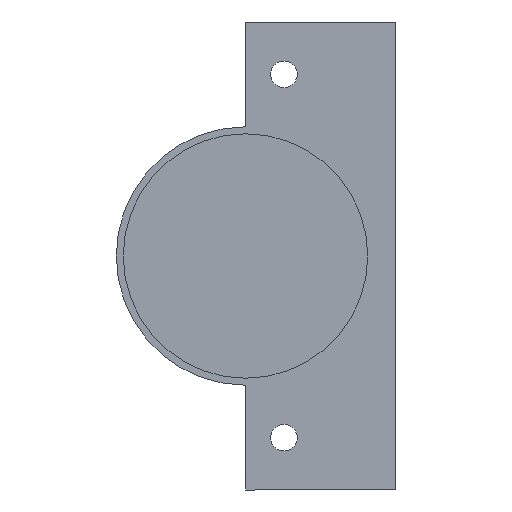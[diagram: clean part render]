
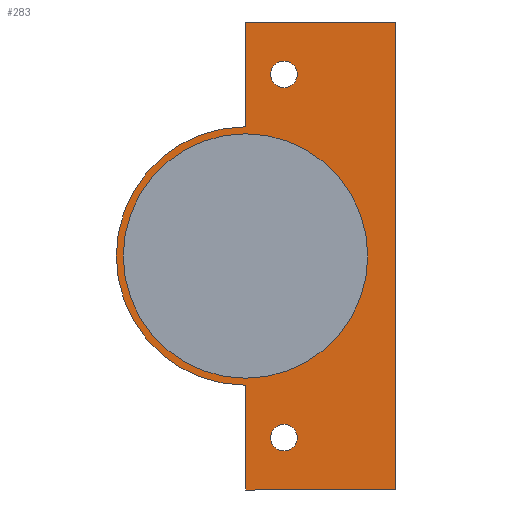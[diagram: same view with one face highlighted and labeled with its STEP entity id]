
A CAD part, front view. The second image highlights one B-rep face of the part: STEP entity #283.
In plain terms, the highlighted planar face has unit normal (0, -1, 0).
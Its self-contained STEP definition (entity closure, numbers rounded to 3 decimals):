
#16 = VERTEX_POINT ( 'NONE', #24 ) ;
#24 = CARTESIAN_POINT ( 'NONE',  ( 29.5, -38.5, 0. ) ) ;
#31 = DIRECTION ( 'NONE',  ( -1., 0., 0. ) ) ;
#47 = ORIENTED_EDGE ( 'NONE', *, *, #1100, .F. ) ;
#58 = DIRECTION ( 'NONE',  ( 0., -1., 0. ) ) ;
#64 = DIRECTION ( 'NONE',  ( -1., 0., 0. ) ) ;
#75 = CARTESIAN_POINT ( 'NONE',  ( 33.5, -38.5, -33.5 ) ) ;
#98 = CARTESIAN_POINT ( 'NONE',  ( 12., -38.5, 0. ) ) ;
#103 = FACE_BOUND ( 'NONE', #224, .T. ) ;
#108 = VERTEX_POINT ( 'NONE', #214 ) ;
#121 = CARTESIAN_POINT ( 'NONE',  ( 19.4, -38.5, -26. ) ) ;
#122 = EDGE_CURVE ( 'NONE', #1144, #433, #303, .T. ) ;
#124 = CIRCLE ( 'NONE', #959, 17.5 ) ;
#145 = FACE_OUTER_BOUND ( 'NONE', #1325, .T. ) ;
#178 = DIRECTION ( 'NONE',  ( 0., 1., 0. ) ) ;
#182 = CARTESIAN_POINT ( 'NONE',  ( 12., -38.5, 0. ) ) ;
#187 = CARTESIAN_POINT ( 'NONE',  ( 33.5, -38.5, -33.5 ) ) ;
#193 = AXIS2_PLACEMENT_3D ( 'NONE', #1043, #1037, #1036 ) ;
#198 = VERTEX_POINT ( 'NONE', #1233 ) ;
#199 = DIRECTION ( 'NONE',  ( -1., 0., 0. ) ) ;
#200 = VERTEX_POINT ( 'NONE', #1301 ) ;
#206 = VECTOR ( 'NONE', #520, 1000. ) ;
#214 = CARTESIAN_POINT ( 'NONE',  ( 12., -38.5, -18.5 ) ) ;
#219 = EDGE_CURVE ( 'NONE', #1096, #543, #847, .T. ) ;
#224 = EDGE_LOOP ( 'NONE', ( #1095, #671 ) ) ;
#232 = CARTESIAN_POINT ( 'NONE',  ( 15.6, -38.5, 26. ) ) ;
#259 = DIRECTION ( 'NONE',  ( 0., 1., 0. ) ) ;
#278 = EDGE_LOOP ( 'NONE', ( #373, #782 ) ) ;
#283 = ADVANCED_FACE ( 'NONE', ( #776, #814, #145, #103 ), #813, .F. ) ;
#292 = CARTESIAN_POINT ( 'NONE',  ( 17.5, -38.5, 26. ) ) ;
#295 = CARTESIAN_POINT ( 'NONE',  ( 19.4, -38.5, 26. ) ) ;
#301 = VERTEX_POINT ( 'NONE', #121 ) ;
#303 = LINE ( 'NONE', #75, #636 ) ;
#326 = CIRCLE ( 'NONE', #193, 1.9 ) ;
#330 = DIRECTION ( 'NONE',  ( -1., 0., 0. ) ) ;
#350 = DIRECTION ( 'NONE',  ( 0., 1., 0. ) ) ;
#356 = VERTEX_POINT ( 'NONE', #1432 ) ;
#373 = ORIENTED_EDGE ( 'NONE', *, *, #439, .T. ) ;
#393 = DIRECTION ( 'NONE',  ( 0., 0., -1. ) ) ;
#413 = AXIS2_PLACEMENT_3D ( 'NONE', #1077, #1065, #1058 ) ;
#425 = ORIENTED_EDGE ( 'NONE', *, *, #965, .F. ) ;
#432 = LINE ( 'NONE', #1470, #1250 ) ;
#433 = VERTEX_POINT ( 'NONE', #1115 ) ;
#436 = EDGE_CURVE ( 'NONE', #301, #198, #894, .T. ) ;
#439 = EDGE_CURVE ( 'NONE', #198, #301, #326, .T. ) ;
#472 = DIRECTION ( 'NONE',  ( -1., 0., 0. ) ) ;
#508 = ORIENTED_EDGE ( 'NONE', *, *, #1455, .F. ) ;
#520 = DIRECTION ( 'NONE',  ( 1., 0., 0. ) ) ;
#543 = VERTEX_POINT ( 'NONE', #295 ) ;
#560 = ORIENTED_EDGE ( 'NONE', *, *, #219, .T. ) ;
#573 = CARTESIAN_POINT ( 'NONE',  ( 12., -38.5, -33.5 ) ) ;
#577 = VECTOR ( 'NONE', #1118, 1000. ) ;
#585 = EDGE_LOOP ( 'NONE', ( #560, #634 ) ) ;
#610 = LINE ( 'NONE', #1416, #577 ) ;
#623 = DIRECTION ( 'NONE',  ( 0., 0., 1. ) ) ;
#634 = ORIENTED_EDGE ( 'NONE', *, *, #938, .T. ) ;
#636 = VECTOR ( 'NONE', #64, 1000. ) ;
#643 = CARTESIAN_POINT ( 'NONE',  ( 12., -38.5, 0. ) ) ;
#665 = AXIS2_PLACEMENT_3D ( 'NONE', #1190, #1110, #1153 ) ;
#671 = ORIENTED_EDGE ( 'NONE', *, *, #716, .F. ) ;
#684 = DIRECTION ( 'NONE',  ( 0., -1., 0. ) ) ;
#691 = VECTOR ( 'NONE', #623, 1000. ) ;
#716 = EDGE_CURVE ( 'NONE', #16, #200, #1021, .T. ) ;
#776 = FACE_BOUND ( 'NONE', #278, .T. ) ;
#780 = CARTESIAN_POINT ( 'NONE',  ( 12., -38.5, 0. ) ) ;
#782 = ORIENTED_EDGE ( 'NONE', *, *, #436, .T. ) ;
#797 = ORIENTED_EDGE ( 'NONE', *, *, #122, .F. ) ;
#813 = PLANE ( 'NONE',  #1366 ) ;
#814 = FACE_BOUND ( 'NONE', #585, .T. ) ;
#847 = CIRCLE ( 'NONE', #665, 1.9 ) ;
#890 = EDGE_CURVE ( 'NONE', #200, #16, #124, .T. ) ;
#894 = CIRCLE ( 'NONE', #413, 1.9 ) ;
#938 = EDGE_CURVE ( 'NONE', #543, #1096, #1292, .T. ) ;
#943 = LINE ( 'NONE', #573, #691 ) ;
#951 = DIRECTION ( 'NONE',  ( -1., 0., 0. ) ) ;
#958 = CARTESIAN_POINT ( 'NONE',  ( 12., -38.5, 33.5 ) ) ;
#959 = AXIS2_PLACEMENT_3D ( 'NONE', #643, #684, #951 ) ;
#965 = EDGE_CURVE ( 'NONE', #433, #108, #943, .T. ) ;
#1021 = CIRCLE ( 'NONE', #1198, 17.5 ) ;
#1036 = DIRECTION ( 'NONE',  ( -1., 0., 0. ) ) ;
#1037 = DIRECTION ( 'NONE',  ( 0., 1., 0. ) ) ;
#1043 = CARTESIAN_POINT ( 'NONE',  ( 17.5, -38.5, -26. ) ) ;
#1058 = DIRECTION ( 'NONE',  ( -1., 0., 0. ) ) ;
#1065 = DIRECTION ( 'NONE',  ( 0., 1., 0. ) ) ;
#1077 = CARTESIAN_POINT ( 'NONE',  ( 17.5, -38.5, -26. ) ) ;
#1078 = ORIENTED_EDGE ( 'NONE', *, *, #1381, .F. ) ;
#1083 = VERTEX_POINT ( 'NONE', #958 ) ;
#1095 = ORIENTED_EDGE ( 'NONE', *, *, #890, .F. ) ;
#1096 = VERTEX_POINT ( 'NONE', #232 ) ;
#1100 = EDGE_CURVE ( 'NONE', #108, #1359, #1206, .T. ) ;
#1110 = DIRECTION ( 'NONE',  ( 0., 1., 0. ) ) ;
#1115 = CARTESIAN_POINT ( 'NONE',  ( 12., -38.5, -33.5 ) ) ;
#1118 = DIRECTION ( 'NONE',  ( 0., 0., 1. ) ) ;
#1141 = CARTESIAN_POINT ( 'NONE',  ( 12., -38.5, 33.5 ) ) ;
#1144 = VERTEX_POINT ( 'NONE', #187 ) ;
#1153 = DIRECTION ( 'NONE',  ( -1., 0., 0. ) ) ;
#1175 = EDGE_CURVE ( 'NONE', #1359, #1083, #610, .T. ) ;
#1190 = CARTESIAN_POINT ( 'NONE',  ( 17.5, -38.5, 26. ) ) ;
#1198 = AXIS2_PLACEMENT_3D ( 'NONE', #98, #58, #31 ) ;
#1206 = CIRCLE ( 'NONE', #1288, 18.5 ) ;
#1233 = CARTESIAN_POINT ( 'NONE',  ( 15.6, -38.5, -26. ) ) ;
#1241 = AXIS2_PLACEMENT_3D ( 'NONE', #292, #259, #330 ) ;
#1249 = CARTESIAN_POINT ( 'NONE',  ( 12., -38.5, 18.5 ) ) ;
#1250 = VECTOR ( 'NONE', #393, 1000. ) ;
#1288 = AXIS2_PLACEMENT_3D ( 'NONE', #182, #178, #199 ) ;
#1292 = CIRCLE ( 'NONE', #1241, 1.9 ) ;
#1301 = CARTESIAN_POINT ( 'NONE',  ( -5.5, -38.5, 0. ) ) ;
#1325 = EDGE_LOOP ( 'NONE', ( #797, #508, #1078, #1496, #47, #425 ) ) ;
#1345 = LINE ( 'NONE', #1141, #206 ) ;
#1359 = VERTEX_POINT ( 'NONE', #1249 ) ;
#1366 = AXIS2_PLACEMENT_3D ( 'NONE', #780, #350, #472 ) ;
#1381 = EDGE_CURVE ( 'NONE', #1083, #356, #1345, .T. ) ;
#1416 = CARTESIAN_POINT ( 'NONE',  ( 12., -38.5, 18.5 ) ) ;
#1432 = CARTESIAN_POINT ( 'NONE',  ( 33.5, -38.5, 33.5 ) ) ;
#1455 = EDGE_CURVE ( 'NONE', #356, #1144, #432, .T. ) ;
#1470 = CARTESIAN_POINT ( 'NONE',  ( 33.5, -38.5, 33.5 ) ) ;
#1496 = ORIENTED_EDGE ( 'NONE', *, *, #1175, .F. ) ;
